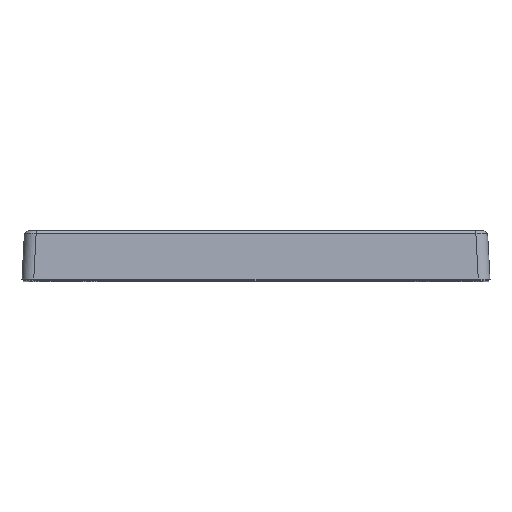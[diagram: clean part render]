
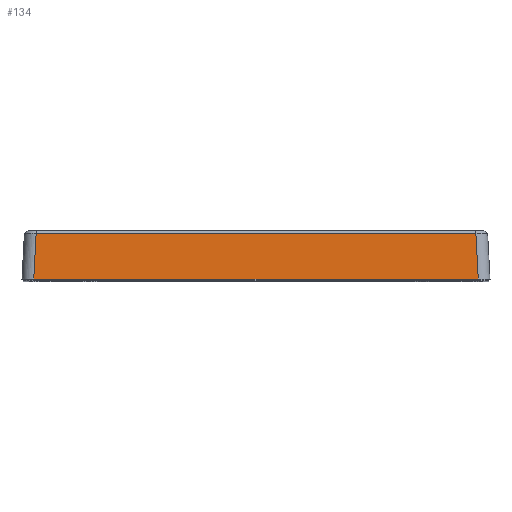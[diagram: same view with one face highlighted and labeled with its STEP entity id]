
A CAD part, top view. The second image highlights one B-rep face of the part: STEP entity #134.
In plain terms, the highlighted planar face has unit normal (0, 0.052, 0.999).
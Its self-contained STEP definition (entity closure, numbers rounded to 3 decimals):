
#131 = EDGE_CURVE ( 'NONE', #150, #163, #1107, .T. ) ;
#134 = ADVANCED_FACE ( 'NONE', ( #1096 ), #1095, .T. ) ;
#141 = EDGE_CURVE ( 'NONE', #147, #163, #1142, .T. ) ;
#142 = ORIENTED_EDGE ( 'NONE', *, *, #131, .F. ) ;
#145 = ORIENTED_EDGE ( 'NONE', *, *, #146, .T. ) ;
#146 = EDGE_CURVE ( 'NONE', #156, #147, #1156, .T. ) ;
#147 = VERTEX_POINT ( 'NONE', #1176 ) ;
#148 = ORIENTED_EDGE ( 'NONE', *, *, #161, .T. ) ;
#150 = VERTEX_POINT ( 'NONE', #1141 ) ;
#156 = VERTEX_POINT ( 'NONE', #1174 ) ;
#161 = EDGE_CURVE ( 'NONE', #150, #156, #1167, .T. ) ;
#162 = ORIENTED_EDGE ( 'NONE', *, *, #141, .T. ) ;
#163 = VERTEX_POINT ( 'NONE', #1135 ) ;
#165 = EDGE_LOOP ( 'NONE', ( #148, #145, #162, #142 ) ) ;
#1027 = CARTESIAN_POINT ( 'NONE',  ( -119.5, 0., 144.5 ) ) ;
#1050 = DIRECTION ( 'NONE',  ( 0., -0.999, 0.052 ) ) ;
#1051 = DIRECTION ( 'NONE',  ( 0., 0.052, 0.999 ) ) ;
#1094 = AXIS2_PLACEMENT_3D ( 'NONE', #1027, #1051, #1050 ) ;
#1095 = PLANE ( 'NONE',  #1094 ) ;
#1096 = FACE_OUTER_BOUND ( 'NONE', #165, .T. ) ;
#1104 = DIRECTION ( 'NONE',  ( -1., 0., 0. ) ) ;
#1105 = VECTOR ( 'NONE', #1104, 1000. ) ;
#1106 = CARTESIAN_POINT ( 'NONE',  ( -119.5, 1., 144.448 ) ) ;
#1107 = LINE ( 'NONE', #1106, #1105 ) ;
#1135 = CARTESIAN_POINT ( 'NONE',  ( -113.456, 1., 144.448 ) ) ;
#1136 = DIRECTION ( 'NONE',  ( -0.052, 0.997, -0.052 ) ) ;
#1137 = VECTOR ( 'NONE', #1136, 1000. ) ;
#1141 = CARTESIAN_POINT ( 'NONE',  ( 113.456, 1., 144.448 ) ) ;
#1142 = LINE ( 'NONE', #1219, #1218 ) ;
#1155 = CARTESIAN_POINT ( 'NONE',  ( -112.146, 24.302, 143.226 ) ) ;
#1156 = LINE ( 'NONE', #1155, #1178 ) ;
#1166 = CARTESIAN_POINT ( 'NONE',  ( 112.872, 12.145, 143.864 ) ) ;
#1167 = LINE ( 'NONE', #1166, #1137 ) ;
#1174 = CARTESIAN_POINT ( 'NONE',  ( 112.235, 24.302, 143.226 ) ) ;
#1176 = CARTESIAN_POINT ( 'NONE',  ( -112.235, 24.302, 143.226 ) ) ;
#1177 = DIRECTION ( 'NONE',  ( -1., 0., 0. ) ) ;
#1178 = VECTOR ( 'NONE', #1177, 1000. ) ;
#1217 = DIRECTION ( 'NONE',  ( -0.052, -0.997, 0.052 ) ) ;
#1218 = VECTOR ( 'NONE', #1217, 1000. ) ;
#1219 = CARTESIAN_POINT ( 'NONE',  ( -113.525, -0.312, 144.516 ) ) ;
